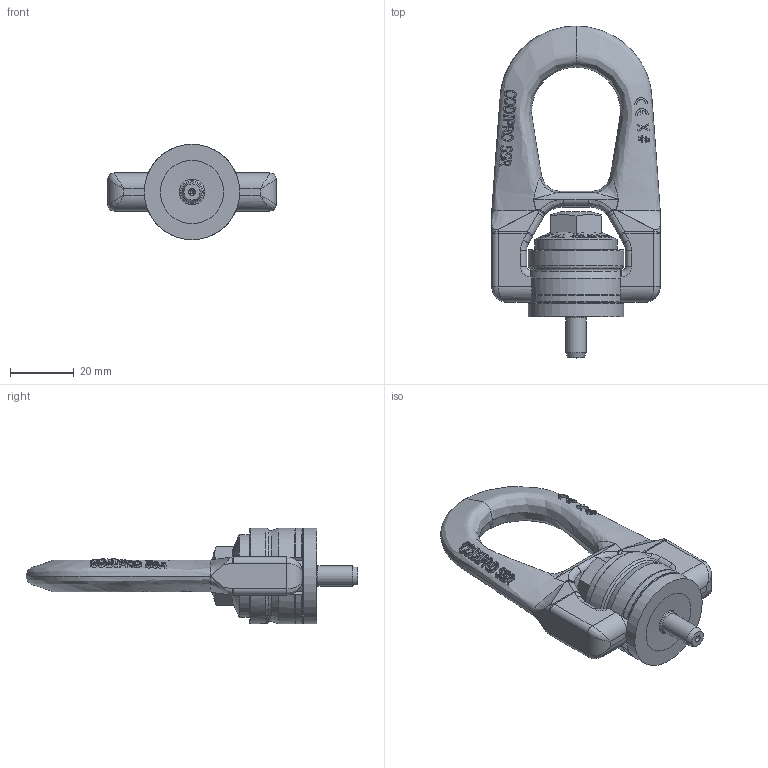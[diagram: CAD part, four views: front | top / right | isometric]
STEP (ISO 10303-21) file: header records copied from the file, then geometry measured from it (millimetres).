
FILE_DESCRIPTION(/* description */ (''),/* implementation_level */ '2;1');
FILE_NAME(/* name */ 'W:\CODIPRO\DOCUMENTS\Plans A NE PAS DIFFUSER !!!\Fichiers STEP\Gamme 2018\Produits NON GRADUP\SS DSR\SS DSR U025.stp',/* time_stamp */ '2018-03-07T13:47:46+01:00',/* author */ ('rklenes'),/* organization */ (''),/* preprocessor_version */ 'ST-DEVELOPER v16.5',/* originating_system */ 'Autodesk Inventor 2017',/* authorisation */ '');
FILE_SCHEMA (('AUTOMOTIVE_DESIGN { 1 0 10303 214 3 1 1 }'));
Products named in the file (5): SS DSR U025; SSM_AF1B-1; SSB_B1B; SS_DRA_U1-4X34; DRE_D1M8A
Assembly tree (4 placements, depth 2):
  SS DSR U025
    SSM_AF1B-1
    SSB_B1B
    SS_DRA_U1-4X34
    DRE_D1M8A
Bounding box: 53 x 104.5 x 30 mm (x, y, z)
Volume: 38440.3 mm3; surface area: 17443.6 mm2
Topology: 4 solids, 4 shells, 807 faces, 2126 edges, 1370 vertices
Faces by surface type: plane 358, bspline 293, cylinder 83, cone 51, torus 21, sphere 1
Full cylindrical faces by diameter (mm): 1 x1, 6.35 x1, 8 x3, 8.2 x1, 10 x2, 14.7 x2, 15 x2, 22 x1, 26 x1, 30 x2
Entity records: 44041 total; most frequent: CARTESIAN_POINT 26580, ORIENTED_EDGE 4148, DIRECTION 2658, EDGE_CURVE 2074, VERTEX_POINT 1362, AXIS2_PLACEMENT_3D 922, EDGE_LOOP 900, LINE 814
